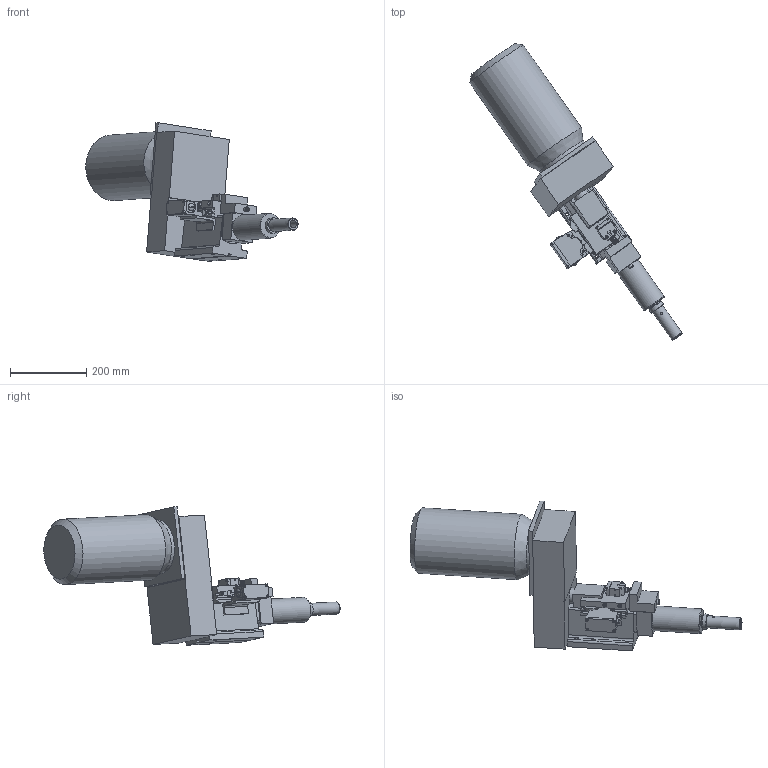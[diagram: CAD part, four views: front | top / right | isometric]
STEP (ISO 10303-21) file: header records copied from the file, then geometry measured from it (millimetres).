
FILE_DESCRIPTION((''),'2;1');
FILE_NAME('C:\VaultWork\Zeichnungen\Maßblätter\Gewindemaschinen\G6-50\G01413-2-0 Maßblatt G6-50 mit Z-Laterne und Stellhülsenaufnahme Gr. 20.stp','2009-06-26T09:40:44',('Test'),(''),'Autodesk Inventor 2008','Autodesk Inventor 2008','');
FILE_SCHEMA(('AUTOMOTIVE_DESIGN { 1 0 10303 214 1 1 1 1 }'));
Length unit declared in the file: millimetre
Products named in the file (1): G01413-2-0 Maßblatt G6-50 mit Z-Laterne und Stellhülsenaufnahme Gr. 20
Bounding box: 556.39 x 776.72 x 363.07 mm (x, y, z)
Volume: 13720906.7 mm3; surface area: 637988.7 mm2
Topology: 3 solids, 3 shells, 523 faces, 1370 edges, 892 vertices
Faces by surface type: plane 355, cylinder 93, cone 37, torus 18, bspline 16, sphere 4
Full cylindrical faces by diameter (mm): 3.8 x2, 4 x2, 4.3 x2, 4.917 x2, 5.9 x2, 5.97 x1, 6 x3, 6.6 x2, 6.647 x1, 7.323 x1, 8 x6, 9.98 x2, 10 x2, 11.4 x1, 13 x1, 16 x1, 20 x2, 22 x1, 28.5 x1, 32 x2, 35 x1, 40 x2, 65 x1, 140 x1, 172 x1
Entity records: 16731 total; most frequent: CARTESIAN_POINT 3811, ORIENTED_EDGE 2500, DIRECTION 2493, EDGE_CURVE 1250, VERTEX_POINT 854, VECTOR 837, LINE 837, AXIS2_PLACEMENT_3D 828
